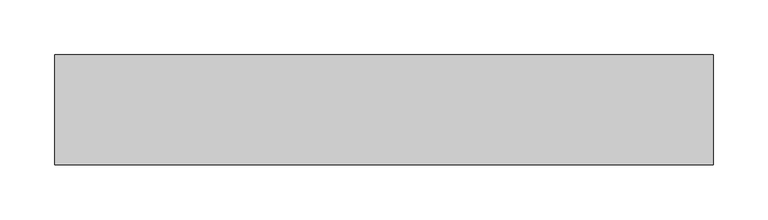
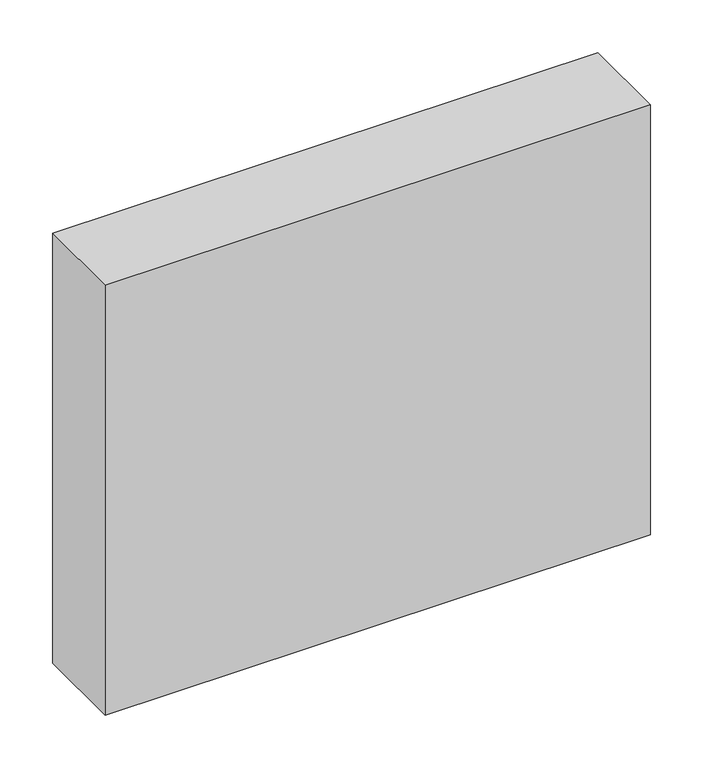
"""IFC4 building model written with IfcOpenShell, lengths in millimetres: proxy geometry, ec1_Becken_2025-07-23."""

from ifc_helpers import new_model, si_unit, frame, origin, place, context, project, spatial, polyline, outline, extrude, source, transform, mapped, element, save


def generic_models_31e82969(model_context):
    return source(origin(), model_context, "Body", "SweptSolid", [
        extrude(outline(polyline([(300.0, 0.0), (-300.0, 0.0), (-300.0, 100.0), (300.0, 100.0), (300.0, 0.0)])), frame((0.0, 0.0, -250.0), z_axis=(0.0, 0.0, 1.0), x_axis=(1.0, 0.0, 0.0)), (0.0, 0.0, 1.0), 500.0),
    ])


if __name__ == "__main__":
    model = new_model("IFC4")
    model_context = context("Model", 3, world=origin())
    ifc_project = project(units=[si_unit("LENGTHUNIT", "METRE", prefix="MILLI")], contexts=[model_context])
    site = spatial("IfcSite", under=ifc_project)
    building = spatial("IfcBuilding", under=site)
    placement = place(None, origin())
    generic_models_shape = generic_models_31e82969(model_context)
    element("IfcBuildingElementProxy", 1, Name="ec1_Becken_2025-07-23", ObjectType="ec1_Becken_2025-07-23", at=placement, inside=building, context=model_context, shape_type="MappedRepresentation", body=[
        mapped(generic_models_shape, transform((0.0, 0.0, 0.0), x_axis=(1.0, 0.0, 0.0), y_axis=(0.0, 1.0, 0.0), z_axis=(0.0, 0.0, 1.0))),
    ])
    save(model, "model.ifc")
